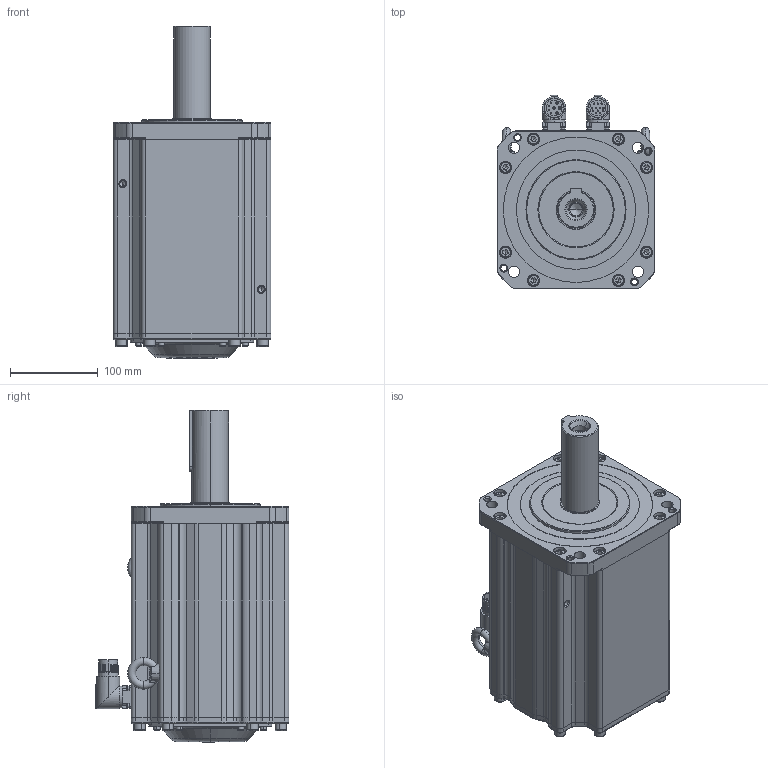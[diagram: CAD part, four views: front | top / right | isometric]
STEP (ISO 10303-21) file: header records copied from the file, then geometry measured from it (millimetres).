
FILE_DESCRIPTION (( 'STEP AP203' ), '1' );
FILE_NAME ('MC20-180-3M15-N552-1¡õPK-NNNN.STEP', '2025-05-05T03:31:00', ( '' ), ( '' ), 'SwSTEP 2.0', 'SolidWorks 2014', '' );
FILE_SCHEMA (( 'CONFIG_CONTROL_DESIGN' ));
Length unit declared in the file: millimetre
Products named in the file (1): MC20-180-3M15-N552-1¡õPK-NNNN
Bounding box: 180 x 221.35 x 378.95 mm (x, y, z)
Volume: 4452389.4 mm3; surface area: 609482.3 mm2
Topology: 40 solids, 42 shells, 2190 faces, 5098 edges, 3031 vertices
Faces by surface type: plane 883, cylinder 569, cone 483, torus 208, bspline 47
Entity records: 63892 total; most frequent: CARTESIAN_POINT 13748, DIRECTION 11030, ORIENTED_EDGE 9944, EDGE_CURVE 4972, AXIS2_PLACEMENT_3D 4270, VERTEX_POINT 3031, LINE 2490, VECTOR 2490
